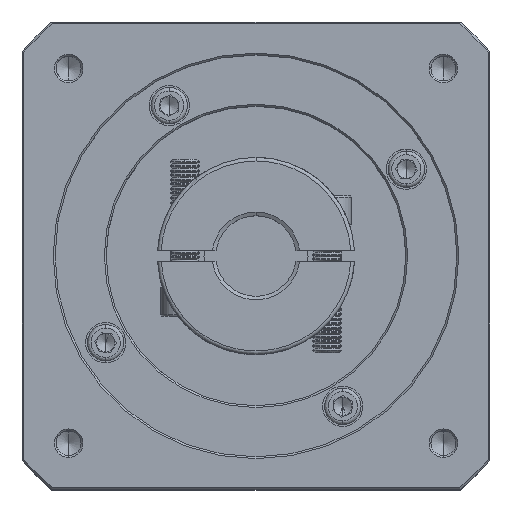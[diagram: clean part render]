
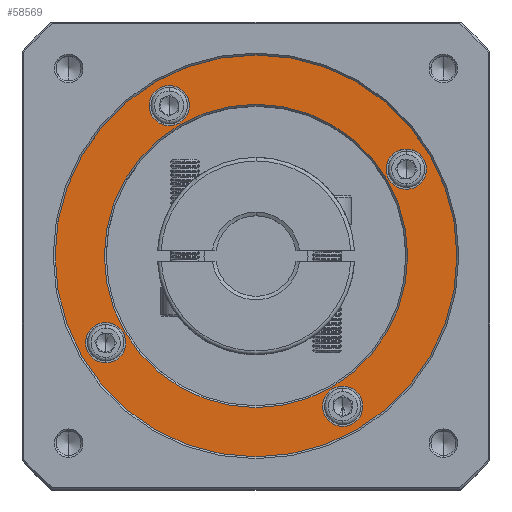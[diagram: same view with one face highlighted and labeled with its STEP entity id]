
A CAD part, top view. The second image highlights one B-rep face of the part: STEP entity #58569.
In plain terms, the highlighted planar face has unit normal (0, 0, 1).
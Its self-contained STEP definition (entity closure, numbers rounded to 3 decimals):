
#661 = CARTESIAN_POINT ( 'NONE',  ( 19.985, 36.193, -1.212 ) ) ;
#845 = CARTESIAN_POINT ( 'NONE',  ( 19.985, 41.693, -1.212 ) ) ;
#1610 = VERTEX_POINT ( 'NONE', #69188 ) ;
#2102 = AXIS2_PLACEMENT_3D ( 'NONE', #90150, #15912, #59093 ) ;
#3351 = EDGE_LOOP ( 'NONE', ( #127093, #38893 ) ) ;
#5218 = EDGE_CURVE ( 'NONE', #49871, #105657, #48571, .T. ) ;
#5714 = ORIENTED_EDGE ( 'NONE', *, *, #119643, .T. ) ;
#7619 = CIRCLE ( 'NONE', #23212, 5.5 ) ;
#8028 = VERTEX_POINT ( 'NONE', #113623 ) ;
#8057 = DIRECTION ( 'NONE',  ( 0., 0., -1. ) ) ;
#10469 = VERTEX_POINT ( 'NONE', #135784 ) ;
#11915 = EDGE_CURVE ( 'NONE', #10469, #133517, #50875, .T. ) ;
#12354 = EDGE_LOOP ( 'NONE', ( #5714, #75109 ) ) ;
#14299 = AXIS2_PLACEMENT_3D ( 'NONE', #51304, #62127, #18495 ) ;
#14903 = AXIS2_PLACEMENT_3D ( 'NONE', #73582, #126950, #137297 ) ;
#15912 = DIRECTION ( 'NONE',  ( 0., 0., 1. ) ) ;
#16853 = ORIENTED_EDGE ( 'NONE', *, *, #113783, .T. ) ;
#18074 = CIRCLE ( 'NONE', #82187, 41.5 ) ;
#18495 = DIRECTION ( 'NONE',  ( 1., 0., 0. ) ) ;
#21652 = CARTESIAN_POINT ( 'NONE',  ( 37.371, 106.58, -1.212 ) ) ;
#23212 = AXIS2_PLACEMENT_3D ( 'NONE', #21652, #33305, #87816 ) ;
#24052 = VERTEX_POINT ( 'NONE', #46407 ) ;
#24668 = CARTESIAN_POINT ( 'NONE',  ( 19.985, 47.193, -1.212 ) ) ;
#24843 = EDGE_CURVE ( 'NONE', #8028, #136680, #38561, .T. ) ;
#25374 = FACE_BOUND ( 'NONE', #114421, .T. ) ;
#28686 = DIRECTION ( 'NONE',  ( 0., 1., 0. ) ) ;
#30327 = FACE_BOUND ( 'NONE', #127492, .T. ) ;
#30581 = CARTESIAN_POINT ( 'NONE',  ( 84.871, 29.807, -1.212 ) ) ;
#30789 = VERTEX_POINT ( 'NONE', #661 ) ;
#33167 = DIRECTION ( 'NONE',  ( 0., 0., -1. ) ) ;
#33305 = DIRECTION ( 'NONE',  ( 0., 0., -1. ) ) ;
#33650 = FACE_BOUND ( 'NONE', #104244, .T. ) ;
#35084 = ORIENTED_EDGE ( 'NONE', *, *, #50693, .T. ) ;
#36498 = DIRECTION ( 'NONE',  ( 0., 1., 0. ) ) ;
#37536 = CIRCLE ( 'NONE', #68770, 5.5 ) ;
#37583 = CARTESIAN_POINT ( 'NONE',  ( 61.121, 65.443, -1.212 ) ) ;
#37986 = AXIS2_PLACEMENT_3D ( 'NONE', #845, #33167, #43990 ) ;
#38561 = CIRCLE ( 'NONE', #51590, 5.5 ) ;
#38817 = ORIENTED_EDGE ( 'NONE', *, *, #73414, .T. ) ;
#38893 = ORIENTED_EDGE ( 'NONE', *, *, #49527, .T. ) ;
#40596 = DIRECTION ( 'NONE',  ( 0., 1., 0. ) ) ;
#42548 = DIRECTION ( 'NONE',  ( 0., 1., 0. ) ) ;
#43990 = DIRECTION ( 'NONE',  ( 0., 1., 0. ) ) ;
#44120 = CIRCLE ( 'NONE', #88542, 5.5 ) ;
#46407 = CARTESIAN_POINT ( 'NONE',  ( 37.371, 101.08, -1.212 ) ) ;
#46670 = CIRCLE ( 'NONE', #69670, 5.5 ) ;
#47163 = CIRCLE ( 'NONE', #137949, 5.5 ) ;
#47485 = DIRECTION ( 'NONE',  ( 0., 1., 0. ) ) ;
#47671 = DIRECTION ( 'NONE',  ( 0., 1., 0. ) ) ;
#48571 = CIRCLE ( 'NONE', #14299, 41.5 ) ;
#49240 = EDGE_CURVE ( 'NONE', #83663, #92627, #37536, .T. ) ;
#49527 = EDGE_CURVE ( 'NONE', #136680, #8028, #44120, .T. ) ;
#49871 = VERTEX_POINT ( 'NONE', #124394 ) ;
#50194 = CARTESIAN_POINT ( 'NONE',  ( 19.985, 41.693, -1.212 ) ) ;
#50693 = EDGE_CURVE ( 'NONE', #24052, #1610, #115759, .T. ) ;
#50875 = CIRCLE ( 'NONE', #103585, 55. ) ;
#50940 = CIRCLE ( 'NONE', #14903, 55. ) ;
#51304 = CARTESIAN_POINT ( 'NONE',  ( 61.121, 65.443, -1.212 ) ) ;
#51590 = AXIS2_PLACEMENT_3D ( 'NONE', #116591, #63141, #40596 ) ;
#52442 = CARTESIAN_POINT ( 'NONE',  ( 37.371, 106.58, -1.212 ) ) ;
#53425 = CARTESIAN_POINT ( 'NONE',  ( 61.121, 65.443, -1.212 ) ) ;
#55398 = CARTESIAN_POINT ( 'NONE',  ( 84.871, 18.807, -1.212 ) ) ;
#55513 = FACE_BOUND ( 'NONE', #108924, .T. ) ;
#58569 = ADVANCED_FACE ( 'NONE', ( #82531, #55513, #25374, #30327, #126012, #33650 ), #68017, .T. ) ;
#59092 = VERTEX_POINT ( 'NONE', #24668 ) ;
#59093 = DIRECTION ( 'NONE',  ( 0., 1., 0. ) ) ;
#62127 = DIRECTION ( 'NONE',  ( 0., 0., -1. ) ) ;
#62756 = CARTESIAN_POINT ( 'NONE',  ( 102.257, 83.693, -1.212 ) ) ;
#62788 = DIRECTION ( 'NONE',  ( 0., 0., -1. ) ) ;
#63141 = DIRECTION ( 'NONE',  ( 0., 0., -1. ) ) ;
#63580 = CARTESIAN_POINT ( 'NONE',  ( 102.257, 89.193, -1.212 ) ) ;
#64244 = CIRCLE ( 'NONE', #37986, 5.5 ) ;
#68017 = PLANE ( 'NONE',  #2102 ) ;
#68770 = AXIS2_PLACEMENT_3D ( 'NONE', #111969, #90013, #47671 ) ;
#69188 = CARTESIAN_POINT ( 'NONE',  ( 37.371, 112.08, -1.212 ) ) ;
#69670 = AXIS2_PLACEMENT_3D ( 'NONE', #137021, #8057, #28686 ) ;
#71449 = CARTESIAN_POINT ( 'NONE',  ( 102.621, 65.443, -1.212 ) ) ;
#73414 = EDGE_CURVE ( 'NONE', #92627, #83663, #46670, .T. ) ;
#73582 = CARTESIAN_POINT ( 'NONE',  ( 61.121, 65.443, -1.212 ) ) ;
#73935 = DIRECTION ( 'NONE',  ( 0., 1., 0. ) ) ;
#74869 = DIRECTION ( 'NONE',  ( 0., 0., -1. ) ) ;
#75109 = ORIENTED_EDGE ( 'NONE', *, *, #11915, .T. ) ;
#79360 = DIRECTION ( 'NONE',  ( 0., 0., -1. ) ) ;
#82187 = AXIS2_PLACEMENT_3D ( 'NONE', #53425, #108339, #86316 ) ;
#82531 = FACE_OUTER_BOUND ( 'NONE', #12354, .T. ) ;
#83663 = VERTEX_POINT ( 'NONE', #55398 ) ;
#86316 = DIRECTION ( 'NONE',  ( 1., 0., 0. ) ) ;
#87799 = EDGE_CURVE ( 'NONE', #1610, #24052, #7619, .T. ) ;
#87816 = DIRECTION ( 'NONE',  ( 0., 1., 0. ) ) ;
#88542 = AXIS2_PLACEMENT_3D ( 'NONE', #63580, #74869, #73935 ) ;
#90013 = DIRECTION ( 'NONE',  ( 0., 0., -1. ) ) ;
#90150 = CARTESIAN_POINT ( 'NONE',  ( 61.121, 65.443, -1.212 ) ) ;
#91774 = EDGE_CURVE ( 'NONE', #59092, #30789, #64244, .T. ) ;
#92627 = VERTEX_POINT ( 'NONE', #30581 ) ;
#103585 = AXIS2_PLACEMENT_3D ( 'NONE', #37583, #134201, #47485 ) ;
#104244 = EDGE_LOOP ( 'NONE', ( #38817, #118838 ) ) ;
#105069 = ORIENTED_EDGE ( 'NONE', *, *, #5218, .T. ) ;
#105557 = ORIENTED_EDGE ( 'NONE', *, *, #118338, .T. ) ;
#105657 = VERTEX_POINT ( 'NONE', #71449 ) ;
#108339 = DIRECTION ( 'NONE',  ( 0., 0., -1. ) ) ;
#108924 = EDGE_LOOP ( 'NONE', ( #105557, #105069 ) ) ;
#110315 = AXIS2_PLACEMENT_3D ( 'NONE', #52442, #62788, #42548 ) ;
#111969 = CARTESIAN_POINT ( 'NONE',  ( 84.871, 24.307, -1.212 ) ) ;
#113623 = CARTESIAN_POINT ( 'NONE',  ( 102.257, 94.693, -1.212 ) ) ;
#113783 = EDGE_CURVE ( 'NONE', #30789, #59092, #47163, .T. ) ;
#114421 = EDGE_LOOP ( 'NONE', ( #122741, #35084 ) ) ;
#114750 = CARTESIAN_POINT ( 'NONE',  ( 61.121, 120.443, -1.212 ) ) ;
#115759 = CIRCLE ( 'NONE', #110315, 5.5 ) ;
#116591 = CARTESIAN_POINT ( 'NONE',  ( 102.257, 89.193, -1.212 ) ) ;
#118338 = EDGE_CURVE ( 'NONE', #105657, #49871, #18074, .T. ) ;
#118838 = ORIENTED_EDGE ( 'NONE', *, *, #49240, .T. ) ;
#119643 = EDGE_CURVE ( 'NONE', #133517, #10469, #50940, .T. ) ;
#122741 = ORIENTED_EDGE ( 'NONE', *, *, #87799, .T. ) ;
#124394 = CARTESIAN_POINT ( 'NONE',  ( 19.621, 65.443, -1.212 ) ) ;
#126012 = FACE_BOUND ( 'NONE', #3351, .T. ) ;
#126950 = DIRECTION ( 'NONE',  ( 0., 0., 1. ) ) ;
#127093 = ORIENTED_EDGE ( 'NONE', *, *, #24843, .T. ) ;
#127492 = EDGE_LOOP ( 'NONE', ( #131298, #16853 ) ) ;
#131298 = ORIENTED_EDGE ( 'NONE', *, *, #91774, .T. ) ;
#133517 = VERTEX_POINT ( 'NONE', #114750 ) ;
#134201 = DIRECTION ( 'NONE',  ( 0., 0., 1. ) ) ;
#135784 = CARTESIAN_POINT ( 'NONE',  ( 61.121, 10.443, -1.212 ) ) ;
#136680 = VERTEX_POINT ( 'NONE', #62756 ) ;
#137021 = CARTESIAN_POINT ( 'NONE',  ( 84.871, 24.307, -1.212 ) ) ;
#137297 = DIRECTION ( 'NONE',  ( 0., 1., 0. ) ) ;
#137949 = AXIS2_PLACEMENT_3D ( 'NONE', #50194, #79360, #36498 ) ;
